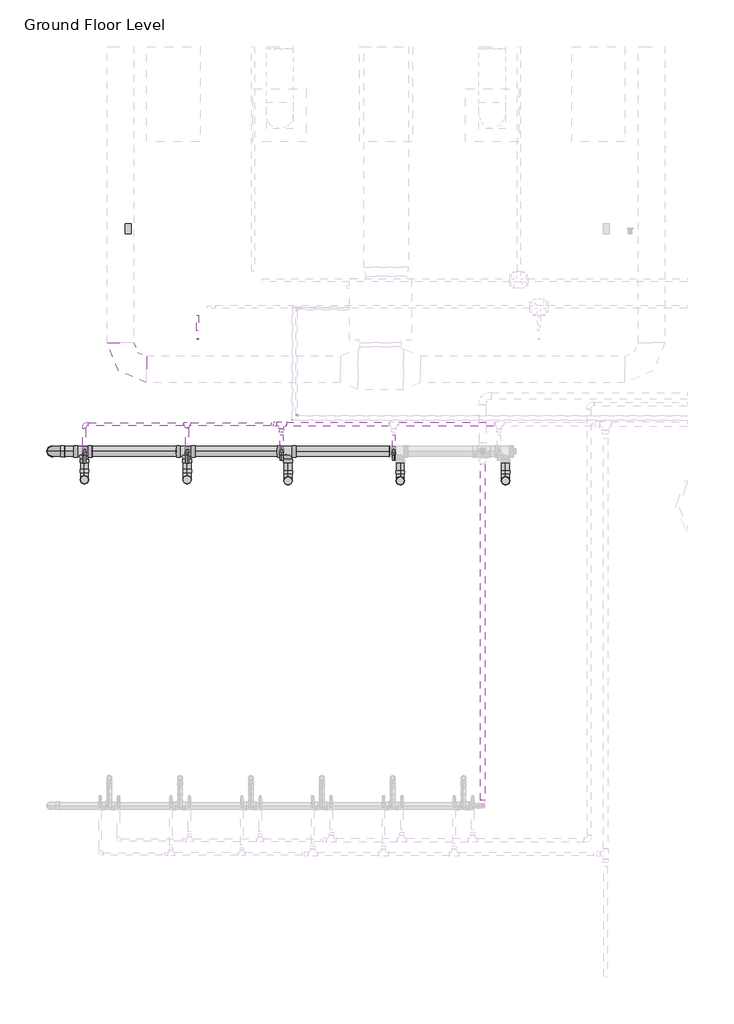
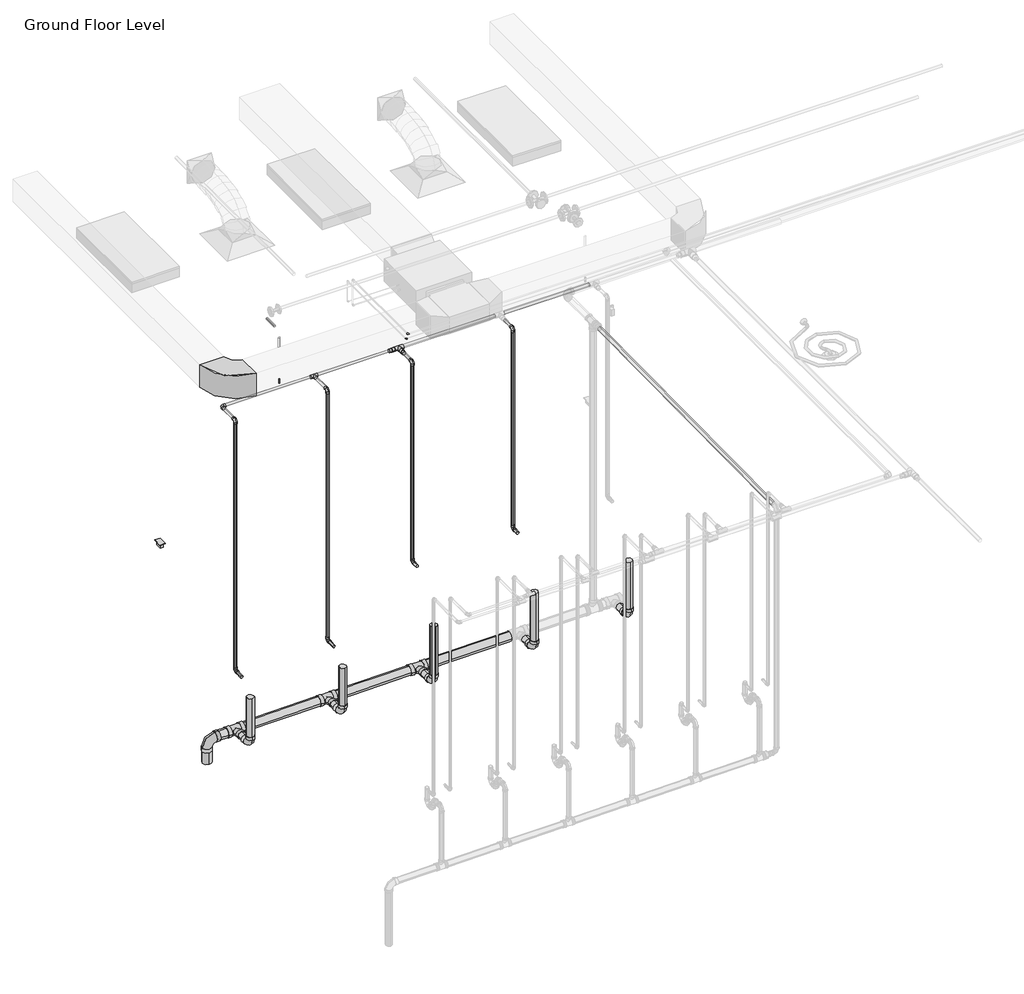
# One storey, part 42 of 74: 34 pipe segments, 24 pipe fittings, 1 duct fitting, 1 fire suppression terminal, 1 proxy.
"""IFC4 building model written with IfcOpenShell, lengths in millimetres."""

from ifc_helpers import new_model, si_unit, point, frame, frame_2d, origin, place, context, project, spatial, circle_curve, trimmed, segment, composite_curve, outline, extrude, transform, mapped, element, save
from components import m_duplex_receptacle_standard_10251bba, m_rectangular_elbow_radius_1_w_618da153, m_sprinkler_pendent_15_mm_pendent_06fcbd8e, m_bend_pvc_sch_40_dwv_standard_a4b99d37, m_bend_pvc_sch_40_dwv_standard_aa7efa4c, m_elbow_generic_standard_a088f956, m_elbow_generic_standard_2a704253, m_tee_reducing_sanitary_pvc_sch_40_dwv_standard_b49161a9, standard_517a5a8d, standard_ecb2b93d, standard_28db8dab, standard_72b35c3b, standard_08ff6011, standard_d0d0b892

model = new_model("IFC4")

# Units and contexts
model_context = context("Model", 3, world=origin())
ifc_project = project(units=[si_unit("LENGTHUNIT", "METRE", prefix="MILLI")], contexts=[model_context])

# Site, building, storey
site = spatial("IfcSite", under=ifc_project)
building = spatial("IfcBuilding", under=site)
storey = spatial("IfcBuildingStorey", under=building, Name="Ground Floor Level", Elevation=900.0)

# Proxy
placement = place(None, origin())
m_duplex_receptacle_standard_shape = m_duplex_receptacle_standard_10251bba(model_context)
element("IfcBuildingElementProxy", 1, Name="M_Duplex Receptacle : Standard", ObjectType="M_Duplex Receptacle : Standard", at=placement, inside=storey, context=model_context, shape_type="MappedRepresentation", body=[
    mapped(m_duplex_receptacle_standard_shape, transform((-20847.2327605, 15655.2153534, 1000.0), x_axis=(1.0, 0.0, 0.0), y_axis=(0.0, 1.0, 0.0), z_axis=(0.0, 0.0, 1.0))),
])

# Duct fitting
m_rectangular_elbow_radius_1_w_shape = m_rectangular_elbow_radius_1_w_618da153(model_context)
element("IfcDuctFitting", 2, ObjectType="M_Rectangular Elbow - Radius : 1 W", at=placement, inside=storey, context=model_context, shape_type="MappedRepresentation", body=[
    mapped(m_rectangular_elbow_radius_1_w_shape, transform((-20937.2327605, 14069.8153534, 4075.2881511), x_axis=(0.0, -1.0, 0.0), y_axis=(1.0, 0.0, 0.0), z_axis=(0.0, 0.0, 1.0))),
])

# Fire suppression terminal
m_sprinkler_pendent_15_mm_pendent_shape = m_sprinkler_pendent_15_mm_pendent_06fcbd8e(model_context)
element("IfcFireSuppressionTerminal", 3, ObjectType="M_Sprinkler - Pendent : 15 mm Pendent", at=placement, inside=storey, context=model_context, shape_type="MappedRepresentation", body=[
    mapped(m_sprinkler_pendent_15_mm_pendent_shape, transform((-20063.6803933, 14412.7243649, 3650.0), x_axis=(1.0, 0.0, 0.0), y_axis=(0.0, 1.0, 0.0), z_axis=(0.0, 0.0, 1.0))),
])

# Pipe fittings
m_bend_pvc_sch_40_dwv_standard_shape = m_bend_pvc_sch_40_dwv_standard_a4b99d37(model_context)
element("IfcPipeFitting", 4, ObjectType="M_Bend - PVC - Sch 40 - DWV : Standard", at=placement, inside=storey, context=model_context, shape_type="MappedRepresentation", body=[
    mapped(m_bend_pvc_sch_40_dwv_standard_shape, transform((-21343.0428538, 12823.8178806, 203.6352174), x_axis=(0.0, 0.0, -1.0), y_axis=(0.0, 1.0, 0.0), z_axis=(1.0, 0.0, 0.0))),
])
element("IfcPipeFitting", 5, ObjectType="M_Bend - PVC - Sch 40 - DWV : Standard", at=placement, inside=storey, context=model_context, shape_type="MappedRepresentation", body=[
    mapped(m_bend_pvc_sch_40_dwv_standard_shape, transform((-20183.0428538, 12823.8178806, 215.2352174), x_axis=(0.0, 0.0, -1.0), y_axis=(0.0, 1.0, 0.0), z_axis=(1.0, 0.0, 0.0))),
])
element("IfcPipeFitting", 6, ObjectType="M_Bend - PVC - Sch 40 - DWV : Standard", at=placement, inside=storey, context=model_context, shape_type="MappedRepresentation", body=[
    mapped(m_bend_pvc_sch_40_dwv_standard_shape, transform((-19043.0428538, 12811.6726561, 226.6352174), x_axis=(0.0, 0.0, -1.0), y_axis=(0.0, 1.0, 0.0), z_axis=(1.0, 0.0, 0.0))),
])
element("IfcPipeFitting", 7, ObjectType="M_Bend - PVC - Sch 40 - DWV : Standard", at=placement, inside=storey, context=model_context, shape_type="MappedRepresentation", body=[
    mapped(m_bend_pvc_sch_40_dwv_standard_shape, transform((-17775.8329095, 12811.6726561, 239.3073168), x_axis=(0.0, 0.0, -1.0), y_axis=(0.0, 1.0, 0.0), z_axis=(1.0, 0.0, 0.0))),
])
element("IfcPipeFitting", 8, ObjectType="M_Bend - PVC - Sch 40 - DWV : Standard", at=placement, inside=storey, context=model_context, shape_type="MappedRepresentation", body=[
    mapped(m_bend_pvc_sch_40_dwv_standard_shape, transform((-16586.4202262, 12811.6726561, 251.2014437), x_axis=(0.0, 0.0, -1.0), y_axis=(0.0, 1.0, 0.0), z_axis=(1.0, 0.0, 0.0))),
])
m_bend_pvc_sch_40_dwv_standard_2_shape = m_bend_pvc_sch_40_dwv_standard_aa7efa4c(model_context)
element("IfcPipeFitting", 9, ObjectType="M_Bend - PVC - Sch 40 - DWV : Standard", at=placement, inside=storey, context=model_context, shape_type="MappedRepresentation", body=[
    mapped(m_bend_pvc_sch_40_dwv_standard_2_shape, transform((-21707.2327605, 13143.7240477, 200.1933183), x_axis=(0.0, 0.0, 1.0), y_axis=(1.0, 0.0, 0.0), z_axis=(0.0, 1.0, 0.0))),
])
m_elbow_generic_standard_shape = m_elbow_generic_standard_a088f956(model_context)
element("IfcPipeFitting", 10, ObjectType="M_Elbow - Generic : Standard", at=placement, inside=storey, context=model_context, shape_type="MappedRepresentation", body=[
    mapped(m_elbow_generic_standard_shape, transform((-18945.3327605, 13545.2153534, 4380.0), x_axis=(0.0, -1.0, 0.0), y_axis=(1.0, 0.0, 0.0), z_axis=(0.0, 0.0, 1.0))),
])
m_elbow_generic_standard_2_shape = m_elbow_generic_standard_2a704253(model_context)
element("IfcPipeFitting", 11, ObjectType="M_Elbow - Generic : Standard", at=placement, inside=storey, context=model_context, shape_type="MappedRepresentation", body=[
    mapped(m_elbow_generic_standard_2_shape, transform((-18995.0192947, 13494.0185138, 4365.0), x_axis=(0.0, -1.0, 0.0), y_axis=(1.0, 0.0, 0.0), z_axis=(0.0, 0.0, 1.0))),
])
m_tee_reducing_sanitary_pvc_sch_40_dwv_standard_shape = m_tee_reducing_sanitary_pvc_sch_40_dwv_standard_b49161a9(model_context)
element("IfcPipeFitting", 12, ObjectType="M_Tee Reducing Sanitary - PVC - Sch 40 - DWV : Standard", at=placement, inside=storey, context=model_context, shape_type="MappedRepresentation", body=[
    mapped(m_tee_reducing_sanitary_pvc_sch_40_dwv_standard_shape, transform((-21343.0428538, 13143.7240477, 203.6352174), x_axis=(0.9999500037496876, 0.0, 0.009999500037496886), y_axis=(0.0, 1.0, 0.0), z_axis=(-0.009999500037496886, 0.0, 0.9999500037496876))),
])
element("IfcPipeFitting", 13, ObjectType="M_Tee Reducing Sanitary - PVC - Sch 40 - DWV : Standard", at=placement, inside=storey, context=model_context, shape_type="MappedRepresentation", body=[
    mapped(m_tee_reducing_sanitary_pvc_sch_40_dwv_standard_shape, transform((-20183.0428538, 13143.7240477, 215.2352174), x_axis=(0.9999500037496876, 0.0, 0.009999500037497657), y_axis=(0.0, 1.0, 0.0), z_axis=(-0.009999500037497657, 0.0, 0.9999500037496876))),
])
element("IfcPipeFitting", 14, ObjectType="M_Tee Reducing Sanitary - PVC - Sch 40 - DWV : Standard", at=placement, inside=storey, context=model_context, shape_type="MappedRepresentation", body=[
    mapped(m_tee_reducing_sanitary_pvc_sch_40_dwv_standard_shape, transform((-19043.0428538, 13143.7240477, 226.6352174), x_axis=(0.9999500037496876, 0.0, 0.009999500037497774), y_axis=(0.0, 1.0000000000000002, 0.0), z_axis=(-0.009999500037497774, 0.0, 0.9999500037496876))),
])
standard_shape = standard_517a5a8d(model_context)
element("IfcPipeFitting", 15, ObjectType="M_Elbow - CPVC - Sch 40 : Standard", at=placement, inside=storey, context=model_context, shape_type="MappedRepresentation", body=[
    mapped(standard_shape, transform((-21343.0428538, 13149.9865561, 4315.0), x_axis=(0.0, 0.0, 1.0), y_axis=(0.0, 1.0, 0.0), z_axis=(-1.0, 0.0, 0.0))),
])
element("IfcPipeFitting", 16, ObjectType="M_Elbow - CPVC - Sch 40 : Standard", at=placement, inside=storey, context=model_context, shape_type="MappedRepresentation", body=[
    mapped(standard_shape, transform((-20183.0428538, 13149.9865561, 4315.0), x_axis=(0.0, 0.0, 1.0), y_axis=(0.0, 1.0, 0.0), z_axis=(-1.0, 0.0, 0.0))),
])
element("IfcPipeFitting", 17, ObjectType="M_Elbow - CPVC - Sch 40 : Standard", at=placement, inside=storey, context=model_context, shape_type="MappedRepresentation", body=[
    mapped(standard_shape, transform((-19116.48162, 13149.9865561, 1655.0), x_axis=(0.0, 1.0, 0.0), y_axis=(0.0, 0.0, 1.0), z_axis=(1.0, 0.0, 0.0))),
])
element("IfcPipeFitting", 18, ObjectType="M_Elbow - CPVC - Sch 40 : Standard", at=placement, inside=storey, context=model_context, shape_type="MappedRepresentation", body=[
    mapped(standard_shape, transform((-19116.48162, 13149.9865561, 4315.0), x_axis=(0.0, 0.0, 1.0), y_axis=(0.0, 1.0, 0.0), z_axis=(-1.0, 0.0, 0.0))),
])
element("IfcPipeFitting", 19, ObjectType="M_Elbow - CPVC - Sch 40 : Standard", at=placement, inside=storey, context=model_context, shape_type="MappedRepresentation", body=[
    mapped(standard_shape, transform((-17849.2716757, 13149.9865561, 4315.0), x_axis=(0.0, 0.0, 1.0), y_axis=(0.0, 1.0, 0.0), z_axis=(-1.0, 0.0, 0.0))),
])
element("IfcPipeFitting", 20, ObjectType="M_Elbow - CPVC - Sch 40 : Standard", at=placement, inside=storey, context=model_context, shape_type="MappedRepresentation", body=[
    mapped(standard_shape, transform((-17849.2716757, 13149.9865561, 1655.0), x_axis=(0.0, 0.0, -1.0), y_axis=(0.0, -1.0, 0.0), z_axis=(-1.0, 0.0, 0.0))),
])
element("IfcPipeFitting", 21, ObjectType="M_Elbow - CPVC - Sch 40 : Standard", at=placement, inside=storey, context=model_context, shape_type="MappedRepresentation", body=[
    mapped(standard_shape, transform((-21343.0428538, 13449.9865561, 4315.0), x_axis=(-1.0, 0.0, 0.0), y_axis=(0.0, -1.0, 0.0), z_axis=(0.0, 0.0, 1.0))),
])
standard_2_shape = standard_ecb2b93d(model_context)
element("IfcPipeFitting", 22, ObjectType="M_Elbow - CPVC - Sch 40 : Standard", at=placement, inside=storey, context=model_context, shape_type="MappedRepresentation", body=[
    mapped(standard_2_shape, transform((-21343.0428538, 13149.9865561, 983.5000035), x_axis=(0.0, 0.9999999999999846, 1.7577295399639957e-07), y_axis=(0.0, -1.7577295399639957e-07, 0.9999999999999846), z_axis=(1.0, 0.0, 0.0))),
])
standard_3_shape = standard_28db8dab(model_context)
element("IfcPipeFitting", 23, ObjectType="M_Elbow - CPVC - Sch 40 : Standard", at=placement, inside=storey, context=model_context, shape_type="MappedRepresentation", body=[
    mapped(standard_3_shape, transform((-20183.0428538, 13149.9865561, 983.4999984), x_axis=(0.0, 0.0, -1.0), y_axis=(0.0, -1.0, 0.0), z_axis=(-1.0, 0.0, 0.0))),
])
standard_4_shape = standard_72b35c3b(model_context)
element("IfcPipeFitting", 24, ObjectType="M_Tee - CPVC - Sch 40 : Standard", at=placement, inside=storey, context=model_context, shape_type="MappedRepresentation", body=[
    mapped(standard_4_shape, transform((-20183.0428538, 13449.9865561, 4315.0), x_axis=(-1.0, 0.0, 0.0), y_axis=(0.0, 1.0, 0.0), z_axis=(0.0, 0.0, -1.0))),
])
standard_5_shape = standard_08ff6011(model_context)
element("IfcPipeFitting", 25, ObjectType="M_Tee - CPVC - Sch 40 : Standard", at=placement, inside=storey, context=model_context, shape_type="MappedRepresentation", body=[
    mapped(standard_5_shape, transform((-19116.48162, 13449.9865561, 4315.0), x_axis=(-1.0, 0.0, 0.0), y_axis=(0.0, 1.0, 0.0), z_axis=(0.0, 0.0, -1.0))),
])
standard_6_shape = standard_d0d0b892(model_context)
element("IfcPipeFitting", 26, ObjectType="M_Coupling Reducing - CPVC - Sch 40 : Standard", at=placement, inside=storey, context=model_context, shape_type="MappedRepresentation", body=[
    mapped(standard_6_shape, transform((-19116.48162, 13396.0115561, 4315.0), x_axis=(0.0, -1.0, 0.0), y_axis=(1.0, 0.0, 0.0), z_axis=(0.0, 0.0, 1.0))),
])
element("IfcPipeFitting", 27, ObjectType="M_Coupling Reducing - CPVC - Sch 40 : Standard", at=placement, inside=storey, context=model_context, shape_type="MappedRepresentation", body=[
    mapped(standard_6_shape, transform((-19170.45662, 13449.9865561, 4315.0), x_axis=(-1.0, 0.0, 0.0), y_axis=(0.0, -1.0, 0.0), z_axis=(0.0, 0.0, 1.0))),
])

# Pipe segments
element("IfcPipeSegment", 28, ObjectType="CPVC", at=placement, inside=storey, context=model_context, shape_type="SweptSolid", body=[
    extrude(outline(composite_curve([segment(trimmed(circle_curve(frame_2d((983.4999789, -21343.0428538)), 16.7005), [point((983.4999789, -21326.3423538))], [point((1000.2004789, -21343.0428538))], False, "CARTESIAN"), True, "CONTINUOUS"), segment(trimmed(circle_curve(frame_2d((983.4999789, -21343.0428538)), 16.7005), [point((1000.2004789, -21343.0428538))], [point((983.4999789, -21359.7433538))], False, "CARTESIAN"), True, "CONTINUOUS"), segment(trimmed(circle_curve(frame_2d((983.4999789, -21343.0428538)), 16.7005), [point((983.4999789, -21359.7433538))], [point((966.7994789, -21343.0428538))], False, "CARTESIAN"), True, "CONTINUOUS"), segment(trimmed(circle_curve(frame_2d((983.4999789, -21343.0428538)), 16.7005), [point((966.7994789, -21343.0428538))], [point((983.4999789, -21326.3423538))], False, "CARTESIAN"), True, "CONTINUOUS")], self_intersect=False)), frame((0.0, 13009.9865561, 0.0), z_axis=(0.0, 1.0, 0.0), x_axis=(0.0, 0.0, 1.0)), (0.0, 0.0, 1.0), 96.7374537),
])
element("IfcPipeSegment", 29, ObjectType="CPVC", at=placement, inside=storey, context=model_context, shape_type="SweptSolid", body=[
    extrude(outline(composite_curve([segment(trimmed(circle_curve(frame_2d((4315.0, -21343.0428538)), 16.7005), [point((4315.0, -21326.3423538))], [point((4331.7005, -21343.0428538))], False, "CARTESIAN"), True, "CONTINUOUS"), segment(trimmed(circle_curve(frame_2d((4315.0, -21343.0428538)), 16.7005), [point((4331.7005, -21343.0428538))], [point((4315.0, -21359.7433538))], False, "CARTESIAN"), True, "CONTINUOUS"), segment(trimmed(circle_curve(frame_2d((4315.0, -21343.0428538)), 16.7005), [point((4315.0, -21359.7433538))], [point((4298.2995, -21343.0428538))], False, "CARTESIAN"), True, "CONTINUOUS"), segment(trimmed(circle_curve(frame_2d((4315.0, -21343.0428538)), 16.7005), [point((4298.2995, -21343.0428538))], [point((4315.0, -21326.3423538))], False, "CARTESIAN"), True, "CONTINUOUS")], self_intersect=False)), frame((0.0, 13193.2491061, 0.0), z_axis=(0.0, 1.0, 0.0), x_axis=(0.0, 0.0, 1.0)), (0.0, 0.0, 1.0), 213.4749),
])
element("IfcPipeSegment", 30, ObjectType="CPVC", at=placement, inside=storey, context=model_context, shape_type="SweptSolid", body=[
    extrude(outline(composite_curve([segment(trimmed(circle_curve(frame_2d((-21343.0428538, 13149.9865561)), 16.7005), [point((-21359.7433538, 13149.9865561))], [point((-21343.0428538, 13166.6870561))], False, "CARTESIAN"), True, "CONTINUOUS"), segment(trimmed(circle_curve(frame_2d((-21343.0428538, 13149.9865561)), 16.7005), [point((-21343.0428538, 13166.6870561))], [point((-21326.3423538, 13149.9865561))], False, "CARTESIAN"), True, "CONTINUOUS"), segment(trimmed(circle_curve(frame_2d((-21343.0428538, 13149.9865561)), 16.7005), [point((-21326.3423538, 13149.9865561))], [point((-21343.0428538, 13133.2860561))], False, "CARTESIAN"), True, "CONTINUOUS"), segment(trimmed(circle_curve(frame_2d((-21343.0428538, 13149.9865561)), 16.7005), [point((-21343.0428538, 13133.2860561))], [point((-21359.7433538, 13149.9865561))], False, "CARTESIAN"), True, "CONTINUOUS")], self_intersect=False)), frame((0.0, 0.0, 1026.7625498), z_axis=(0.0, 0.0, 1.0), x_axis=(1.0, 0.0, 0.0)), (0.0, 0.0, 1.0), 3244.9749002),
])
element("IfcPipeSegment", 31, ObjectType="CPVC", at=placement, inside=storey, context=model_context, shape_type="SweptSolid", body=[
    extrude(outline(composite_curve([segment(trimmed(circle_curve(frame_2d((983.4999924, -20183.0428538)), 16.7005), [point((983.4999924, -20199.7433538))], [point((966.7994924, -20183.0428538))], False, "CARTESIAN"), True, "CONTINUOUS"), segment(trimmed(circle_curve(frame_2d((983.4999924, -20183.0428538)), 16.7005), [point((966.7994924, -20183.0428538))], [point((983.4999924, -20166.3423538))], False, "CARTESIAN"), True, "CONTINUOUS"), segment(trimmed(circle_curve(frame_2d((983.4999924, -20183.0428538)), 16.7005), [point((983.4999924, -20166.3423538))], [point((1000.2004924, -20183.0428538))], False, "CARTESIAN"), True, "CONTINUOUS"), segment(trimmed(circle_curve(frame_2d((983.4999924, -20183.0428538)), 16.7005), [point((1000.2004924, -20183.0428538))], [point((983.4999924, -20199.7433538))], False, "CARTESIAN"), True, "CONTINUOUS")], self_intersect=False)), frame((0.0, 13009.9865561, 0.0), z_axis=(0.0, 1.0, 0.0), x_axis=(0.0, 0.0, 1.0)), (0.0, 0.0, 1.0), 96.7374529),
])
element("IfcPipeSegment", 32, ObjectType="CPVC", at=placement, inside=storey, context=model_context, shape_type="SweptSolid", body=[
    extrude(outline(composite_curve([segment(trimmed(circle_curve(frame_2d((-20183.0428538, 13149.9865561)), 16.7005), [point((-20199.7433538, 13149.9865561))], [point((-20183.0428538, 13166.6870561))], False, "CARTESIAN"), True, "CONTINUOUS"), segment(trimmed(circle_curve(frame_2d((-20183.0428538, 13149.9865561)), 16.7005), [point((-20183.0428538, 13166.6870561))], [point((-20166.3423538, 13149.9865561))], False, "CARTESIAN"), True, "CONTINUOUS"), segment(trimmed(circle_curve(frame_2d((-20183.0428538, 13149.9865561)), 16.7005), [point((-20166.3423538, 13149.9865561))], [point((-20183.0428538, 13133.2860561))], False, "CARTESIAN"), True, "CONTINUOUS"), segment(trimmed(circle_curve(frame_2d((-20183.0428538, 13149.9865561)), 16.7005), [point((-20183.0428538, 13133.2860561))], [point((-20199.7433538, 13149.9865561))], False, "CARTESIAN"), True, "CONTINUOUS")], self_intersect=False)), frame((0.0, 0.0, 1026.7625455), z_axis=(0.0, 0.0, 1.0), x_axis=(1.0, 0.0, 0.0)), (0.0, 0.0, 1.0), 3244.9749045),
])
element("IfcPipeSegment", 33, ObjectType="CPVC", at=placement, inside=storey, context=model_context, shape_type="SweptSolid", body=[
    extrude(outline(composite_curve([segment(trimmed(circle_curve(frame_2d((1655.0, -19116.48162)), 16.7005), [point((1655.0, -19099.78112))], [point((1671.7005, -19116.48162))], False, "CARTESIAN"), True, "CONTINUOUS"), segment(trimmed(circle_curve(frame_2d((1655.0, -19116.48162)), 16.7005), [point((1671.7005, -19116.48162))], [point((1655.0, -19133.18212))], False, "CARTESIAN"), True, "CONTINUOUS"), segment(trimmed(circle_curve(frame_2d((1655.0, -19116.48162)), 16.7005), [point((1655.0, -19133.18212))], [point((1638.2995, -19116.48162))], False, "CARTESIAN"), True, "CONTINUOUS"), segment(trimmed(circle_curve(frame_2d((1655.0, -19116.48162)), 16.7005), [point((1638.2995, -19116.48162))], [point((1655.0, -19099.78112))], False, "CARTESIAN"), True, "CONTINUOUS")], self_intersect=False)), frame((0.0, 13045.2153534, 0.0), z_axis=(0.0, 1.0, 0.0), x_axis=(0.0, 0.0, 1.0)), (0.0, 0.0, 1.0), 61.5086528),
])
element("IfcPipeSegment", 34, ObjectType="CPVC", at=placement, inside=storey, context=model_context, shape_type="SweptSolid", body=[
    extrude(outline(composite_curve([segment(trimmed(circle_curve(frame_2d((-19116.48162, 13149.9865561)), 16.7005), [point((-19133.18212, 13149.9865561))], [point((-19116.48162, 13166.6870561))], False, "CARTESIAN"), True, "CONTINUOUS"), segment(trimmed(circle_curve(frame_2d((-19116.48162, 13149.9865561)), 16.7005), [point((-19116.48162, 13166.6870561))], [point((-19099.78112, 13149.9865561))], False, "CARTESIAN"), True, "CONTINUOUS"), segment(trimmed(circle_curve(frame_2d((-19116.48162, 13149.9865561)), 16.7005), [point((-19099.78112, 13149.9865561))], [point((-19116.48162, 13133.2860561))], False, "CARTESIAN"), True, "CONTINUOUS"), segment(trimmed(circle_curve(frame_2d((-19116.48162, 13149.9865561)), 16.7005), [point((-19116.48162, 13133.2860561))], [point((-19133.18212, 13149.9865561))], False, "CARTESIAN"), True, "CONTINUOUS")], self_intersect=False)), frame((0.0, 0.0, 1698.26255), z_axis=(0.0, 0.0, 1.0), x_axis=(1.0, 0.0, 0.0)), (0.0, 0.0, 1.0), 2573.4749),
])
element("IfcPipeSegment", 35, ObjectType="CPVC", at=placement, inside=storey, context=model_context, shape_type="SweptSolid", body=[
    extrude(outline(composite_curve([segment(trimmed(circle_curve(frame_2d((1655.0, -17849.2716757)), 16.7005), [point((1655.0, -17865.9721757))], [point((1638.2995, -17849.2716757))], False, "CARTESIAN"), True, "CONTINUOUS"), segment(trimmed(circle_curve(frame_2d((1655.0, -17849.2716757)), 16.7005), [point((1638.2995, -17849.2716757))], [point((1655.0, -17832.5711757))], False, "CARTESIAN"), True, "CONTINUOUS"), segment(trimmed(circle_curve(frame_2d((1655.0, -17849.2716757)), 16.7005), [point((1655.0, -17832.5711757))], [point((1671.7005, -17849.2716757))], False, "CARTESIAN"), True, "CONTINUOUS"), segment(trimmed(circle_curve(frame_2d((1655.0, -17849.2716757)), 16.7005), [point((1671.7005, -17849.2716757))], [point((1655.0, -17865.9721757))], False, "CARTESIAN"), True, "CONTINUOUS")], self_intersect=False)), frame((0.0, 13045.2153534, 0.0), z_axis=(0.0, 1.0, 0.0), x_axis=(0.0, 0.0, 1.0)), (0.0, 0.0, 1.0), 61.5086528),
])
element("IfcPipeSegment", 36, ObjectType="CPVC", at=placement, inside=storey, context=model_context, shape_type="SweptSolid", body=[
    extrude(outline(composite_curve([segment(trimmed(circle_curve(frame_2d((-17849.2716757, 13149.9865561)), 16.7005), [point((-17865.9721757, 13149.9865561))], [point((-17849.2716757, 13166.6870561))], False, "CARTESIAN"), True, "CONTINUOUS"), segment(trimmed(circle_curve(frame_2d((-17849.2716757, 13149.9865561)), 16.7005), [point((-17849.2716757, 13166.6870561))], [point((-17832.5711757, 13149.9865561))], False, "CARTESIAN"), True, "CONTINUOUS"), segment(trimmed(circle_curve(frame_2d((-17849.2716757, 13149.9865561)), 16.7005), [point((-17832.5711757, 13149.9865561))], [point((-17849.2716757, 13133.2860561))], False, "CARTESIAN"), True, "CONTINUOUS"), segment(trimmed(circle_curve(frame_2d((-17849.2716757, 13149.9865561)), 16.7005), [point((-17849.2716757, 13133.2860561))], [point((-17865.9721757, 13149.9865561))], False, "CARTESIAN"), True, "CONTINUOUS")], self_intersect=False)), frame((0.0, 0.0, 1698.26255), z_axis=(0.0, 0.0, 1.0), x_axis=(1.0, 0.0, 0.0)), (0.0, 0.0, 1.0), 2573.4749),
])
element("IfcPipeSegment", 37, ObjectType="CPVC", at=placement, inside=storey, context=model_context, shape_type="SweptSolid", body=[
    extrude(outline(composite_curve([segment(trimmed(circle_curve(frame_2d((13449.9865561, 4315.0)), 16.7005), [point((13433.2860561, 4315.0))], [point((13449.9865561, 4331.7005))], False, "CARTESIAN"), True, "CONTINUOUS"), segment(trimmed(circle_curve(frame_2d((13449.9865561, 4315.0)), 16.7005), [point((13449.9865561, 4331.7005))], [point((13466.6870561, 4315.0))], False, "CARTESIAN"), True, "CONTINUOUS"), segment(trimmed(circle_curve(frame_2d((13449.9865561, 4315.0)), 16.7005), [point((13466.6870561, 4315.0))], [point((13449.9865561, 4298.2995))], False, "CARTESIAN"), True, "CONTINUOUS"), segment(trimmed(circle_curve(frame_2d((13449.9865561, 4315.0)), 16.7005), [point((13449.9865561, 4298.2995))], [point((13433.2860561, 4315.0))], False, "CARTESIAN"), True, "CONTINUOUS")], self_intersect=False)), frame((-21299.7803038, 0.0, 0.0), z_axis=(1.0, 0.0, 0.0), x_axis=(0.0, 1.0, 0.0)), (0.0, 0.0, 1.0), 1077.03725),
])
element("IfcPipeSegment", 38, ObjectType="CPVC", at=placement, inside=storey, context=model_context, shape_type="SweptSolid", body=[
    extrude(outline(composite_curve([segment(trimmed(circle_curve(frame_2d((4315.0, -20183.0428538)), 16.7005), [point((4315.0, -20166.3423538))], [point((4331.7005, -20183.0428538))], False, "CARTESIAN"), True, "CONTINUOUS"), segment(trimmed(circle_curve(frame_2d((4315.0, -20183.0428538)), 16.7005), [point((4331.7005, -20183.0428538))], [point((4315.0, -20199.7433538))], False, "CARTESIAN"), True, "CONTINUOUS"), segment(trimmed(circle_curve(frame_2d((4315.0, -20183.0428538)), 16.7005), [point((4315.0, -20199.7433538))], [point((4298.2995, -20183.0428538))], False, "CARTESIAN"), True, "CONTINUOUS"), segment(trimmed(circle_curve(frame_2d((4315.0, -20183.0428538)), 16.7005), [point((4298.2995, -20183.0428538))], [point((4315.0, -20166.3423538))], False, "CARTESIAN"), True, "CONTINUOUS")], self_intersect=False)), frame((0.0, 13193.2491061, 0.0), z_axis=(0.0, 1.0, 0.0), x_axis=(0.0, 0.0, 1.0)), (0.0, 0.0, 1.0), 217.03725),
])
element("IfcPipeSegment", 39, ObjectType="CPVC", at=placement, inside=storey, context=model_context, shape_type="SweptSolid", body=[
    extrude(outline(composite_curve([segment(trimmed(circle_curve(frame_2d((13449.9865561, 4315.0)), 16.7005), [point((13433.2860561, 4315.0))], [point((13449.9865561, 4331.7005))], False, "CARTESIAN"), True, "CONTINUOUS"), segment(trimmed(circle_curve(frame_2d((13449.9865561, 4315.0)), 16.7005), [point((13449.9865561, 4331.7005))], [point((13466.6870561, 4315.0))], False, "CARTESIAN"), True, "CONTINUOUS"), segment(trimmed(circle_curve(frame_2d((13449.9865561, 4315.0)), 16.7005), [point((13466.6870561, 4315.0))], [point((13449.9865561, 4298.2995))], False, "CARTESIAN"), True, "CONTINUOUS"), segment(trimmed(circle_curve(frame_2d((13449.9865561, 4315.0)), 16.7005), [point((13449.9865561, 4298.2995))], [point((13433.2860561, 4315.0))], False, "CARTESIAN"), True, "CONTINUOUS")], self_intersect=False)), frame((-20143.3426538, 0.0, 0.0), z_axis=(1.0, 0.0, 0.0), x_axis=(0.0, 1.0, 0.0)), (0.0, 0.0, 1.0), 906.7671588),
])
element("IfcPipeSegment", 40, ObjectType="CPVC", at=placement, inside=storey, context=model_context, shape_type="SweptSolid", body=[
    extrude(outline(composite_curve([segment(trimmed(circle_curve(frame_2d((4315.0, -19116.48162)), 16.7005), [point((4315.0, -19099.78112))], [point((4331.7005, -19116.48162))], False, "CARTESIAN"), True, "CONTINUOUS"), segment(trimmed(circle_curve(frame_2d((4315.0, -19116.48162)), 16.7005), [point((4331.7005, -19116.48162))], [point((4315.0, -19133.18212))], False, "CARTESIAN"), True, "CONTINUOUS"), segment(trimmed(circle_curve(frame_2d((4315.0, -19116.48162)), 16.7005), [point((4315.0, -19133.18212))], [point((4298.2995, -19116.48162))], False, "CARTESIAN"), True, "CONTINUOUS"), segment(trimmed(circle_curve(frame_2d((4315.0, -19116.48162)), 16.7005), [point((4298.2995, -19116.48162))], [point((4315.0, -19099.78112))], False, "CARTESIAN"), True, "CONTINUOUS")], self_intersect=False)), frame((0.0, 13193.2491061, 0.0), z_axis=(0.0, 1.0, 0.0), x_axis=(0.0, 0.0, 1.0)), (0.0, 0.0, 1.0), 136.643575),
])
element("IfcPipeSegment", 41, ObjectType="CPVC", at=placement, inside=storey, context=model_context, shape_type="SweptSolid", body=[
    extrude(outline(composite_curve([segment(trimmed(circle_curve(frame_2d((13449.9865561, 4315.0)), 21.082), [point((13428.9045561, 4315.0))], [point((13449.9865561, 4336.082))], False, "CARTESIAN"), True, "CONTINUOUS"), segment(trimmed(circle_curve(frame_2d((13449.9865561, 4315.0)), 21.082), [point((13449.9865561, 4336.082))], [point((13471.0685561, 4315.0))], False, "CARTESIAN"), True, "CONTINUOUS"), segment(trimmed(circle_curve(frame_2d((13449.9865561, 4315.0)), 21.082), [point((13471.0685561, 4315.0))], [point((13449.9865561, 4293.918))], False, "CARTESIAN"), True, "CONTINUOUS"), segment(trimmed(circle_curve(frame_2d((13449.9865561, 4315.0)), 21.082), [point((13449.9865561, 4293.918))], [point((13428.9045561, 4315.0))], False, "CARTESIAN"), True, "CONTINUOUS")], self_intersect=False)), frame((-19062.50662, 0.0, 0.0), z_axis=(1.0, 0.0, 0.0), x_axis=(0.0, 1.0, 0.0)), (0.0, 0.0, 1.0), 1159.2599443),
])
element("IfcPipeSegment", 42, ObjectType="CPVC", at=placement, inside=storey, context=model_context, shape_type="SweptSolid", body=[
    extrude(outline(composite_curve([segment(trimmed(circle_curve(frame_2d((4315.0, -17849.2716757)), 16.7005), [point((4315.0, -17832.5711757))], [point((4331.7005, -17849.2716757))], False, "CARTESIAN"), True, "CONTINUOUS"), segment(trimmed(circle_curve(frame_2d((4315.0, -17849.2716757)), 16.7005), [point((4331.7005, -17849.2716757))], [point((4315.0, -17865.9721757))], False, "CARTESIAN"), True, "CONTINUOUS"), segment(trimmed(circle_curve(frame_2d((4315.0, -17849.2716757)), 16.7005), [point((4315.0, -17865.9721757))], [point((4298.2995, -17849.2716757))], False, "CARTESIAN"), True, "CONTINUOUS"), segment(trimmed(circle_curve(frame_2d((4315.0, -17849.2716757)), 16.7005), [point((4298.2995, -17849.2716757))], [point((4315.0, -17832.5711757))], False, "CARTESIAN"), True, "CONTINUOUS")], self_intersect=False)), frame((0.0, 13193.2491061, 0.0), z_axis=(0.0, 1.0, 0.0), x_axis=(0.0, 0.0, 1.0)), (0.0, 0.0, 1.0), 136.643575),
])
element("IfcPipeSegment", 43, ObjectType="CPVC", at=placement, inside=storey, context=model_context, shape_type="SweptSolid", body=[
    extrude(outline(composite_curve([segment(trimmed(circle_curve(frame_2d((13449.9865561, 4315.0)), 21.082), [point((13428.9045561, 4315.0))], [point((13449.9865561, 4336.082))], False, "CARTESIAN"), True, "CONTINUOUS"), segment(trimmed(circle_curve(frame_2d((13449.9865561, 4315.0)), 21.082), [point((13449.9865561, 4336.082))], [point((13471.0685561, 4315.0))], False, "CARTESIAN"), True, "CONTINUOUS"), segment(trimmed(circle_curve(frame_2d((13449.9865561, 4315.0)), 21.082), [point((13471.0685561, 4315.0))], [point((13449.9865561, 4293.918))], False, "CARTESIAN"), True, "CONTINUOUS"), segment(trimmed(circle_curve(frame_2d((13449.9865561, 4315.0)), 21.082), [point((13449.9865561, 4293.918))], [point((13428.9045561, 4315.0))], False, "CARTESIAN"), True, "CONTINUOUS")], self_intersect=False)), frame((-17795.2966757, 0.0, 0.0), z_axis=(1.0, 0.0, 0.0), x_axis=(0.0, 1.0, 0.0)), (0.0, 0.0, 1.0), 1081.4626833),
])
element("IfcPipeSegment", 44, ObjectType="PVC - DWV", at=placement, inside=storey, context=model_context, shape_type="SweptSolid", body=[
    extrude(outline(composite_curve([segment(trimmed(circle_curve(frame_2d((-21343.0428538, 12823.8178806)), 44.45), [point((-21298.5928538, 12823.8178806))], [point((-21343.0428538, 12779.3678806))], False, "CARTESIAN"), True, "CONTINUOUS"), segment(trimmed(circle_curve(frame_2d((-21343.0428538, 12823.8178806)), 44.45), [point((-21343.0428538, 12779.3678806))], [point((-21387.4928538, 12823.8178806))], False, "CARTESIAN"), True, "CONTINUOUS"), segment(trimmed(circle_curve(frame_2d((-21343.0428538, 12823.8178806)), 44.45), [point((-21387.4928538, 12823.8178806))], [point((-21343.0428538, 12868.2678806))], False, "CARTESIAN"), True, "CONTINUOUS"), segment(trimmed(circle_curve(frame_2d((-21343.0428538, 12823.8178806)), 44.45), [point((-21343.0428538, 12868.2678806))], [point((-21298.5928538, 12823.8178806))], False, "CARTESIAN"), True, "CONTINUOUS")], self_intersect=False)), frame((0.0, 0.0, 319.5354174), z_axis=(0.0, 0.0, 1.0), x_axis=(1.0, 0.0, 0.0)), (0.0, 0.0, 1.0), 511.1329592),
])
element("IfcPipeSegment", 45, ObjectType="PVC - DWV", at=placement, inside=storey, context=model_context, shape_type="SweptSolid", body=[
    extrude(outline(composite_curve([segment(trimmed(circle_curve(frame_2d((203.6352174, -21343.0428538)), 44.45), [point((203.6352174, -21298.5928538))], [point((248.0852174, -21343.0428538))], False, "CARTESIAN"), True, "CONTINUOUS"), segment(trimmed(circle_curve(frame_2d((203.6352174, -21343.0428538)), 44.45), [point((248.0852174, -21343.0428538))], [point((203.6352174, -21387.4928538))], False, "CARTESIAN"), True, "CONTINUOUS"), segment(trimmed(circle_curve(frame_2d((203.6352174, -21343.0428538)), 44.45), [point((203.6352174, -21387.4928538))], [point((159.1852174, -21343.0428538))], False, "CARTESIAN"), True, "CONTINUOUS"), segment(trimmed(circle_curve(frame_2d((203.6352174, -21343.0428538)), 44.45), [point((159.1852174, -21343.0428538))], [point((203.6352174, -21298.5928538))], False, "CARTESIAN"), True, "CONTINUOUS")], self_intersect=False)), frame((0.0, 12939.7180806, 0.0), z_axis=(0.0, 1.0, 0.0), x_axis=(0.0, 0.0, 1.0)), (0.0, 0.0, 1.0), 75.4057671),
])
element("IfcPipeSegment", 46, ObjectType="PVC - DWV", at=placement, inside=storey, context=model_context, shape_type="SweptSolid", body=[
    extrude(outline(composite_curve([segment(trimmed(circle_curve(frame_2d((0.0, -57.15)), 57.15), [point((0.0, 0.0))], [point((57.15, -57.15))], False, "CARTESIAN"), True, "CONTINUOUS"), segment(trimmed(circle_curve(frame_2d((0.0, -57.15)), 57.15), [point((57.15, -57.15))], [point((0.0, -114.3))], False, "CARTESIAN"), True, "CONTINUOUS"), segment(trimmed(circle_curve(frame_2d((0.0, -57.15)), 57.15), [point((0.0, -114.3))], [point((-57.15, -57.15))], False, "CARTESIAN"), True, "CONTINUOUS"), segment(trimmed(circle_curve(frame_2d((0.0, -57.15)), 57.15), [point((-57.15, -57.15))], [point((0.0, 0.0))], False, "CARTESIAN"), True, "CONTINUOUS")], self_intersect=False)), frame((-21564.3649037, 13200.8740477, 201.6219969), z_axis=(0.9999500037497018, 0.0, 0.00999950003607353), x_axis=(0.00999950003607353, 0.0, -0.9999500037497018)), (0.0, 0.0, 1.0), 100.6811159),
])
element("IfcPipeSegment", 47, ObjectType="PVC - DWV", at=placement, inside=storey, context=model_context, shape_type="SweptSolid", body=[
    extrude(outline(composite_curve([segment(trimmed(circle_curve(frame_2d((-20183.0428538, 12823.8178806)), 44.45), [point((-20138.5928538, 12823.8178806))], [point((-20183.0428538, 12779.3678806))], False, "CARTESIAN"), True, "CONTINUOUS"), segment(trimmed(circle_curve(frame_2d((-20183.0428538, 12823.8178806)), 44.45), [point((-20183.0428538, 12779.3678806))], [point((-20227.4928538, 12823.8178806))], False, "CARTESIAN"), True, "CONTINUOUS"), segment(trimmed(circle_curve(frame_2d((-20183.0428538, 12823.8178806)), 44.45), [point((-20227.4928538, 12823.8178806))], [point((-20183.0428538, 12868.2678806))], False, "CARTESIAN"), True, "CONTINUOUS"), segment(trimmed(circle_curve(frame_2d((-20183.0428538, 12823.8178806)), 44.45), [point((-20183.0428538, 12868.2678806))], [point((-20138.5928538, 12823.8178806))], False, "CARTESIAN"), True, "CONTINUOUS")], self_intersect=False)), frame((0.0, 0.0, 331.1354174), z_axis=(0.0, 0.0, 1.0), x_axis=(1.0, 0.0, 0.0)), (0.0, 0.0, 1.0), 499.5329592),
])
element("IfcPipeSegment", 48, ObjectType="PVC - DWV", at=placement, inside=storey, context=model_context, shape_type="SweptSolid", body=[
    extrude(outline(composite_curve([segment(trimmed(circle_curve(frame_2d((215.2352174, -20183.0428538)), 44.45), [point((215.2352174, -20138.5928538))], [point((259.6852174, -20183.0428538))], False, "CARTESIAN"), True, "CONTINUOUS"), segment(trimmed(circle_curve(frame_2d((215.2352174, -20183.0428538)), 44.45), [point((259.6852174, -20183.0428538))], [point((215.2352174, -20227.4928538))], False, "CARTESIAN"), True, "CONTINUOUS"), segment(trimmed(circle_curve(frame_2d((215.2352174, -20183.0428538)), 44.45), [point((215.2352174, -20227.4928538))], [point((170.7852174, -20183.0428538))], False, "CARTESIAN"), True, "CONTINUOUS"), segment(trimmed(circle_curve(frame_2d((215.2352174, -20183.0428538)), 44.45), [point((170.7852174, -20183.0428538))], [point((215.2352174, -20138.5928538))], False, "CARTESIAN"), True, "CONTINUOUS")], self_intersect=False)), frame((0.0, 12939.7180806, 0.0), z_axis=(0.0, 1.0, 0.0), x_axis=(0.0, 0.0, 1.0)), (0.0, 0.0, 1.0), 75.4057671),
])
element("IfcPipeSegment", 49, ObjectType="PVC - DWV", at=placement, inside=storey, context=model_context, shape_type="SweptSolid", body=[
    extrude(outline(composite_curve([segment(trimmed(circle_curve(frame_2d((0.0, -57.15)), 57.15), [point((0.0, 0.0))], [point((57.1500001, -57.15))], False, "CARTESIAN"), True, "CONTINUOUS"), segment(trimmed(circle_curve(frame_2d((0.0, -57.15)), 57.15), [point((57.1500001, -57.15))], [point((0.0, -114.3))], False, "CARTESIAN"), True, "CONTINUOUS"), segment(trimmed(circle_curve(frame_2d((0.0, -57.15)), 57.15), [point((0.0, -114.3))], [point((-57.15, -57.15))], False, "CARTESIAN"), True, "CONTINUOUS"), segment(trimmed(circle_curve(frame_2d((0.0, -57.15)), 57.15), [point((-57.15, -57.15))], [point((0.0, 0.0))], False, "CARTESIAN"), True, "CONTINUOUS")], self_intersect=False)), frame((-21254.1472985, 13200.8740477, 204.524173), z_axis=(0.9999500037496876, 0.0, 0.009999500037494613), x_axis=(0.009999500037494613, 0.0, -0.9999500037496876)), (0.0, 0.0, 1.0), 950.5079986),
])
element("IfcPipeSegment", 50, ObjectType="PVC - DWV", at=placement, inside=storey, context=model_context, shape_type="SweptSolid", body=[
    extrude(outline(composite_curve([segment(trimmed(circle_curve(frame_2d((-19043.0428538, 12811.6726561)), 44.45), [point((-18998.5928538, 12811.6726561))], [point((-19043.0428538, 12767.2226561))], False, "CARTESIAN"), True, "CONTINUOUS"), segment(trimmed(circle_curve(frame_2d((-19043.0428538, 12811.6726561)), 44.45), [point((-19043.0428538, 12767.2226561))], [point((-19087.4928538, 12811.6726561))], False, "CARTESIAN"), True, "CONTINUOUS"), segment(trimmed(circle_curve(frame_2d((-19043.0428538, 12811.6726561)), 44.45), [point((-19087.4928538, 12811.6726561))], [point((-19043.0428538, 12856.1226561))], False, "CARTESIAN"), True, "CONTINUOUS"), segment(trimmed(circle_curve(frame_2d((-19043.0428538, 12811.6726561)), 44.45), [point((-19043.0428538, 12856.1226561))], [point((-18998.5928538, 12811.6726561))], False, "CARTESIAN"), True, "CONTINUOUS")], self_intersect=False)), frame((0.0, 0.0, 342.5354174), z_axis=(0.0, 0.0, 1.0), x_axis=(1.0, 0.0, 0.0)), (0.0, 0.0, 1.0), 647.4645826),
])
element("IfcPipeSegment", 51, ObjectType="PVC - DWV", at=placement, inside=storey, context=model_context, shape_type="SweptSolid", body=[
    extrude(outline(composite_curve([segment(trimmed(circle_curve(frame_2d((226.6352174, -19043.0428538)), 44.45), [point((226.6352174, -18998.5928538))], [point((271.0852174, -19043.0428538))], False, "CARTESIAN"), True, "CONTINUOUS"), segment(trimmed(circle_curve(frame_2d((226.6352174, -19043.0428538)), 44.45), [point((271.0852174, -19043.0428538))], [point((226.6352174, -19087.4928538))], False, "CARTESIAN"), True, "CONTINUOUS"), segment(trimmed(circle_curve(frame_2d((226.6352174, -19043.0428538)), 44.45), [point((226.6352174, -19087.4928538))], [point((182.1852174, -19043.0428538))], False, "CARTESIAN"), True, "CONTINUOUS"), segment(trimmed(circle_curve(frame_2d((226.6352174, -19043.0428538)), 44.45), [point((182.1852174, -19043.0428538))], [point((226.6352174, -18998.5928538))], False, "CARTESIAN"), True, "CONTINUOUS")], self_intersect=False)), frame((0.0, 12927.5728561, 0.0), z_axis=(0.0, 1.0, 0.0), x_axis=(0.0, 0.0, 1.0)), (0.0, 0.0, 1.0), 87.5509916),
])
element("IfcPipeSegment", 52, ObjectType="PVC - DWV", at=placement, inside=storey, context=model_context, shape_type="SweptSolid", body=[
    extrude(outline(composite_curve([segment(trimmed(circle_curve(frame_2d((0.0, -57.15)), 57.15), [point((0.0, 0.0))], [point((57.1500001, -57.15))], False, "CARTESIAN"), True, "CONTINUOUS"), segment(trimmed(circle_curve(frame_2d((0.0, -57.15)), 57.15), [point((57.1500001, -57.15))], [point((0.0, -114.3))], False, "CARTESIAN"), True, "CONTINUOUS"), segment(trimmed(circle_curve(frame_2d((0.0, -57.15)), 57.15), [point((0.0, -114.3))], [point((-57.15, -57.15))], False, "CARTESIAN"), True, "CONTINUOUS"), segment(trimmed(circle_curve(frame_2d((0.0, -57.15)), 57.15), [point((-57.15, -57.15))], [point((0.0, 0.0))], False, "CARTESIAN"), True, "CONTINUOUS")], self_intersect=False)), frame((-20094.1472985, 13200.8740477, 216.124173), z_axis=(0.9999500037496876, 0.0, 0.009999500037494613), x_axis=(0.009999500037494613, 0.0, -0.9999500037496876)), (0.0, 0.0, 1.0), 930.5069986),
])
element("IfcPipeSegment", 53, ObjectType="PVC - DWV", at=placement, inside=storey, context=model_context, shape_type="SweptSolid", body=[
    extrude(outline(composite_curve([segment(trimmed(circle_curve(frame_2d((-17775.8329095, 12811.6726561)), 44.45), [point((-17731.3829095, 12811.6726561))], [point((-17775.8329095, 12767.2226561))], False, "CARTESIAN"), True, "CONTINUOUS"), segment(trimmed(circle_curve(frame_2d((-17775.8329095, 12811.6726561)), 44.45), [point((-17775.8329095, 12767.2226561))], [point((-17820.2829095, 12811.6726561))], False, "CARTESIAN"), True, "CONTINUOUS"), segment(trimmed(circle_curve(frame_2d((-17775.8329095, 12811.6726561)), 44.45), [point((-17820.2829095, 12811.6726561))], [point((-17775.8329095, 12856.1226561))], False, "CARTESIAN"), True, "CONTINUOUS"), segment(trimmed(circle_curve(frame_2d((-17775.8329095, 12811.6726561)), 44.45), [point((-17775.8329095, 12856.1226561))], [point((-17731.3829095, 12811.6726561))], False, "CARTESIAN"), True, "CONTINUOUS")], self_intersect=False)), frame((0.0, 0.0, 355.2075168), z_axis=(0.0, 0.0, 1.0), x_axis=(1.0, 0.0, 0.0)), (0.0, 0.0, 1.0), 634.7924832),
])
element("IfcPipeSegment", 54, ObjectType="PVC - DWV", at=placement, inside=storey, context=model_context, shape_type="SweptSolid", body=[
    extrude(outline(composite_curve([segment(trimmed(circle_curve(frame_2d((239.3073168, -17775.8329095)), 44.45), [point((239.3073168, -17731.3829095))], [point((283.7573168, -17775.8329095))], False, "CARTESIAN"), True, "CONTINUOUS"), segment(trimmed(circle_curve(frame_2d((239.3073168, -17775.8329095)), 44.45), [point((283.7573168, -17775.8329095))], [point((239.3073168, -17820.2829095))], False, "CARTESIAN"), True, "CONTINUOUS"), segment(trimmed(circle_curve(frame_2d((239.3073168, -17775.8329095)), 44.45), [point((239.3073168, -17820.2829095))], [point((194.8573168, -17775.8329095))], False, "CARTESIAN"), True, "CONTINUOUS"), segment(trimmed(circle_curve(frame_2d((239.3073168, -17775.8329095)), 44.45), [point((194.8573168, -17775.8329095))], [point((239.3073168, -17731.3829095))], False, "CARTESIAN"), True, "CONTINUOUS")], self_intersect=False)), frame((0.0, 12927.5728561, 0.0), z_axis=(0.0, 1.0, 0.0), x_axis=(0.0, 0.0, 1.0)), (0.0, 0.0, 1.0), 87.5509916),
])
element("IfcPipeSegment", 55, ObjectType="PVC - DWV", at=placement, inside=storey, context=model_context, shape_type="SweptSolid", body=[
    extrude(outline(composite_curve([segment(trimmed(circle_curve(frame_2d((0.0, -57.15)), 57.15), [point((0.0, 0.0))], [point((57.1500001, -57.15))], False, "CARTESIAN"), True, "CONTINUOUS"), segment(trimmed(circle_curve(frame_2d((0.0, -57.15)), 57.15), [point((57.1500001, -57.15))], [point((0.0, -114.3))], False, "CARTESIAN"), True, "CONTINUOUS"), segment(trimmed(circle_curve(frame_2d((0.0, -57.15)), 57.15), [point((0.0, -114.3))], [point((-57.15, -57.15))], False, "CARTESIAN"), True, "CONTINUOUS"), segment(trimmed(circle_curve(frame_2d((0.0, -57.15)), 57.15), [point((-57.15, -57.15))], [point((0.0, 0.0))], False, "CARTESIAN"), True, "CONTINUOUS")], self_intersect=False)), frame((-18954.1472985, 13200.8740477, 227.524173), z_axis=(0.9999500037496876, 0.0, 0.009999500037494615), x_axis=(0.009999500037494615, 0.0, -0.9999500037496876)), (0.0, 0.0, 1.0), 1057.7233032),
])
element("IfcPipeSegment", 56, ObjectType="PVC - DWV", at=placement, inside=storey, context=model_context, shape_type="SweptSolid", body=[
    extrude(outline(composite_curve([segment(trimmed(circle_curve(frame_2d((-16586.4202262, 12811.6726561)), 44.45), [point((-16541.9702262, 12811.6726561))], [point((-16586.4202262, 12767.2226561))], False, "CARTESIAN"), True, "CONTINUOUS"), segment(trimmed(circle_curve(frame_2d((-16586.4202262, 12811.6726561)), 44.45), [point((-16586.4202262, 12767.2226561))], [point((-16630.8702262, 12811.6726561))], False, "CARTESIAN"), True, "CONTINUOUS"), segment(trimmed(circle_curve(frame_2d((-16586.4202262, 12811.6726561)), 44.45), [point((-16630.8702262, 12811.6726561))], [point((-16586.4202262, 12856.1226561))], False, "CARTESIAN"), True, "CONTINUOUS"), segment(trimmed(circle_curve(frame_2d((-16586.4202262, 12811.6726561)), 44.45), [point((-16586.4202262, 12856.1226561))], [point((-16541.9702262, 12811.6726561))], False, "CARTESIAN"), True, "CONTINUOUS")], self_intersect=False)), frame((0.0, 0.0, 367.1016437), z_axis=(0.0, 0.0, 1.0), x_axis=(1.0, 0.0, 0.0)), (0.0, 0.0, 1.0), 622.8983563),
])
element("IfcPipeSegment", 57, ObjectType="PVC - DWV", at=placement, inside=storey, context=model_context, shape_type="SweptSolid", body=[
    extrude(outline(composite_curve([segment(trimmed(circle_curve(frame_2d((251.2014437, -16586.4202262)), 44.45), [point((251.2014437, -16541.9702262))], [point((295.6514437, -16586.4202262))], False, "CARTESIAN"), True, "CONTINUOUS"), segment(trimmed(circle_curve(frame_2d((251.2014437, -16586.4202262)), 44.45), [point((295.6514437, -16586.4202262))], [point((251.2014437, -16630.8702262))], False, "CARTESIAN"), True, "CONTINUOUS"), segment(trimmed(circle_curve(frame_2d((251.2014437, -16586.4202262)), 44.45), [point((251.2014437, -16630.8702262))], [point((206.7514437, -16586.4202262))], False, "CARTESIAN"), True, "CONTINUOUS"), segment(trimmed(circle_curve(frame_2d((251.2014437, -16586.4202262)), 44.45), [point((206.7514437, -16586.4202262))], [point((251.2014437, -16541.9702262))], False, "CARTESIAN"), True, "CONTINUOUS")], self_intersect=False)), frame((0.0, 12927.5728561, 0.0), z_axis=(0.0, 1.0, 0.0), x_axis=(0.0, 0.0, 1.0)), (0.0, 0.0, 1.0), 87.5509916),
])
element("IfcPipeSegment", 58, ObjectType="PVC - DWV", at=placement, inside=storey, context=model_context, shape_type="SweptSolid", body=[
    extrude(outline(composite_curve([segment(trimmed(circle_curve(frame_2d((-21707.2327605, 13143.7240477)), 57.15), [point((-21650.0827605, 13143.7240477))], [point((-21707.2327605, 13086.5740477))], False, "CARTESIAN"), True, "CONTINUOUS"), segment(trimmed(circle_curve(frame_2d((-21707.2327605, 13143.7240477)), 57.15), [point((-21707.2327605, 13086.5740477))], [point((-21764.3827605, 13143.7240477))], False, "CARTESIAN"), True, "CONTINUOUS"), segment(trimmed(circle_curve(frame_2d((-21707.2327605, 13143.7240477)), 57.15), [point((-21764.3827605, 13143.7240477))], [point((-21707.2327605, 13200.8740477))], False, "CARTESIAN"), True, "CONTINUOUS"), segment(trimmed(circle_curve(frame_2d((-21707.2327605, 13143.7240477)), 57.15), [point((-21707.2327605, 13200.8740477))], [point((-21650.0827605, 13143.7240477))], False, "CARTESIAN"), True, "CONTINUOUS")], self_intersect=False)), frame((0.0, 0.0, -100.0), z_axis=(0.0, 0.0, 1.0), x_axis=(1.0, 0.0, 0.0)), (0.0, 0.0, 1.0), 157.3183183),
])
element("IfcPipeSegment", 59, ObjectType="PVC - DWV", at=placement, inside=storey, context=model_context, shape_type="SweptSolid", body=[
    extrude(outline(composite_curve([segment(trimmed(circle_curve(frame_2d((0.0, 24.13)), 24.13), [point((24.13, 24.13))], [point((0.0, 0.0))], False, "CARTESIAN"), True, "CONTINUOUS"), segment(trimmed(circle_curve(frame_2d((0.0, 24.13)), 24.13), [point((0.0, 0.0))], [point((-24.13, 24.13))], False, "CARTESIAN"), True, "CONTINUOUS"), segment(trimmed(circle_curve(frame_2d((0.0, 24.13)), 24.13), [point((-24.13, 24.13))], [point((0.0, 48.26))], False, "CARTESIAN"), True, "CONTINUOUS"), segment(trimmed(circle_curve(frame_2d((0.0, 24.13)), 24.13), [point((0.0, 48.26))], [point((24.13, 24.13))], False, "CARTESIAN"), True, "CONTINUOUS")], self_intersect=False)), frame((-16844.3158637, 9205.5039756, 4035.5483838), z_axis=(0.0, 0.9999500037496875, 0.009999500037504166), x_axis=(1.0, 0.0, 0.0)), (0.0, 0.0, 1.0), 3795.0796333),
])
element("IfcPipeSegment", 60, ObjectType="Steel flanged", at=placement, inside=storey, context=model_context, shape_type="SweptSolid", body=[
    extrude(outline(composite_curve([segment(trimmed(circle_curve(frame_2d((-20063.6803933, 14412.7243649)), 10.668), [point((-20074.3483933, 14412.7243649))], [point((-20063.6803933, 14423.3923649))], False, "CARTESIAN"), True, "CONTINUOUS"), segment(trimmed(circle_curve(frame_2d((-20063.6803933, 14412.7243649)), 10.668), [point((-20063.6803933, 14423.3923649))], [point((-20053.0123933, 14412.7243649))], False, "CARTESIAN"), True, "CONTINUOUS"), segment(trimmed(circle_curve(frame_2d((-20063.6803933, 14412.7243649)), 10.668), [point((-20053.0123933, 14412.7243649))], [point((-20063.6803933, 14402.0563649))], False, "CARTESIAN"), True, "CONTINUOUS"), segment(trimmed(circle_curve(frame_2d((-20063.6803933, 14412.7243649)), 10.668), [point((-20063.6803933, 14402.0563649))], [point((-20074.3483933, 14412.7243649))], False, "CARTESIAN"), True, "CONTINUOUS")], self_intersect=False)), frame((0.0, 0.0, 3650.0), z_axis=(0.0, 0.0, 1.0), x_axis=(1.0, 0.0, 0.0)), (0.0, 0.0, 1.0), 548.2668816),
])
element("IfcPipeSegment", 61, ObjectType="Steel flanged", at=placement, inside=storey, context=model_context, shape_type="SweptSolid", body=[
    extrude(outline(composite_curve([segment(trimmed(circle_curve(frame_2d((4291.0943441, -20063.6803933)), 10.668), [point((4291.0943441, -20053.0123933))], [point((4301.7623441, -20063.6803933))], False, "CARTESIAN"), True, "CONTINUOUS"), segment(trimmed(circle_curve(frame_2d((4291.0943441, -20063.6803933)), 10.668), [point((4301.7623441, -20063.6803933))], [point((4291.0943441, -20074.3483933))], False, "CARTESIAN"), True, "CONTINUOUS"), segment(trimmed(circle_curve(frame_2d((4291.0943441, -20063.6803933)), 10.668), [point((4291.0943441, -20074.3483933))], [point((4280.4263441, -20063.6803933))], False, "CARTESIAN"), True, "CONTINUOUS"), segment(trimmed(circle_curve(frame_2d((4291.0943441, -20063.6803933)), 10.668), [point((4280.4263441, -20063.6803933))], [point((4291.0943441, -20053.0123933))], False, "CARTESIAN"), True, "CONTINUOUS")], self_intersect=False)), frame((0.0, 14505.7329586, 0.0), z_axis=(0.0, 1.0, 0.0), x_axis=(0.0, 0.0, 1.0)), (0.0, 0.0, 1.0), 174.7266324),
])

save(model, "model.ifc")
